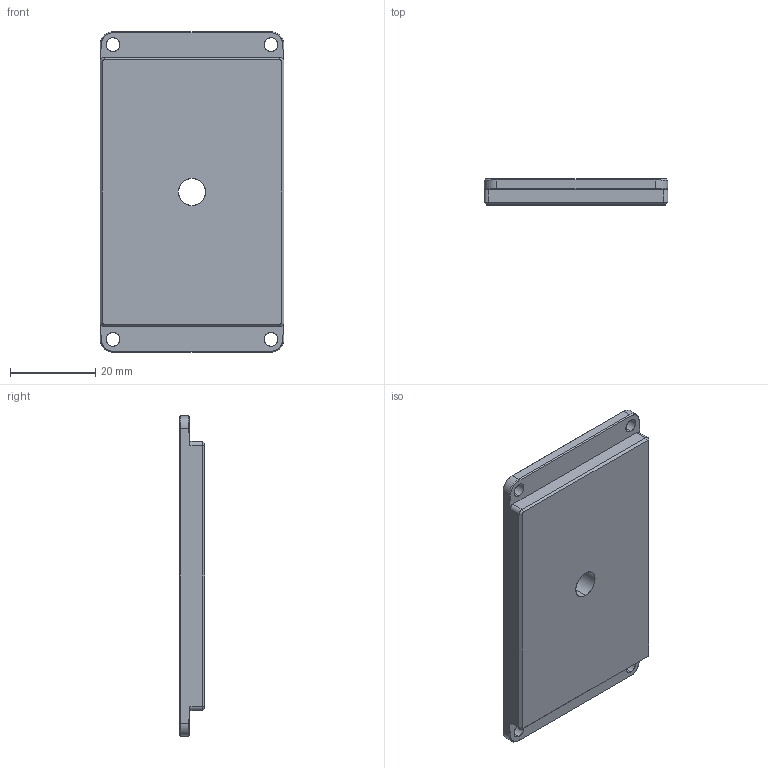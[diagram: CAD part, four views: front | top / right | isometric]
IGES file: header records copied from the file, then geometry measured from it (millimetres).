
Start section: SolidWorks IGES file using analytic representation for surfaces
Global section: file name: F:\mechanical\Documentation\Forge\12-02905-00000.IGS; native system: SolidWorks 2020; preprocessor: SolidWorks 2020; author: DChou; date: 221027.100143; units: millimetre
Bounding box: 43 x 6 x 75 mm (x, y, z)
Surface area: 7730 mm2 (no closed solid volume)
Topology: 0 solids, 0 shells, 58 faces, 696 edges, 696 vertices
Faces by surface type: revolution 34, bspline 24
